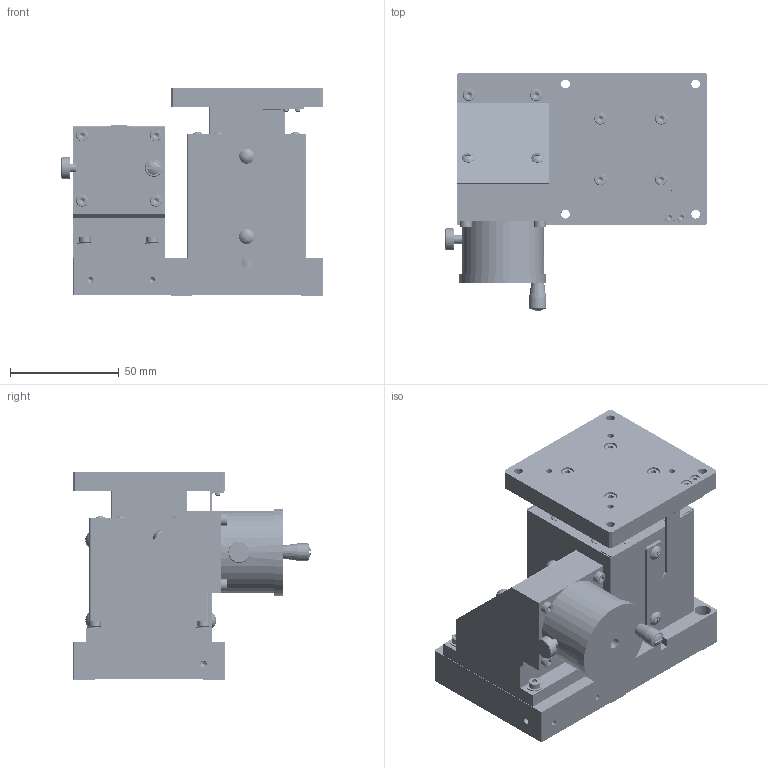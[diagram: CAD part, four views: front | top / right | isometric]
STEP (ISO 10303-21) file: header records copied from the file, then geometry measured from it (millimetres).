
FILE_DESCRIPTION (( 'STEP AP214' ), '1' );
FILE_NAME ('ZM07A-V1F-R.STEP', '2011-07-19T05:54:08', ( '' ), ( '' ), 'SwSTEP 2.0', 'SolidWorks 2011', '' );
FILE_SCHEMA (( 'AUTOMOTIVE_DESIGN' ));
Length unit declared in the file: millimetre
Products named in the file (5): DP004491-1020-00-2; DP004491-1020-00-Part-1-2; DP004491-1010-00-2; DP004491-1010-00-Part-1-2; ZM07A-V1F-R
Assembly tree (4 placements, depth 3):
  ZM07A-V1F-R
    DP004491-1020-00-2
      DP004491-1020-00-Part-1-2
    DP004491-1010-00-2
      DP004491-1010-00-Part-1-2
Bounding box: 120.3 x 109.47 x 96 mm (x, y, z)
Volume: 416030.5 mm3; surface area: 151085.1 mm2
Topology: 2 solids, 191 shells, 6090 faces, 15193 edges, 9281 vertices
Faces by surface type: cylinder 2323, plane 2217, cone 970, sphere 354, torus 222, bspline 4
Entity records: 189133 total; most frequent: CARTESIAN_POINT 41707, DIRECTION 33097, ORIENTED_EDGE 29462, EDGE_CURVE 14731, AXIS2_PLACEMENT_3D 13249, VERTEX_POINT 9185, CIRCLE 7154, EDGE_LOOP 6850
